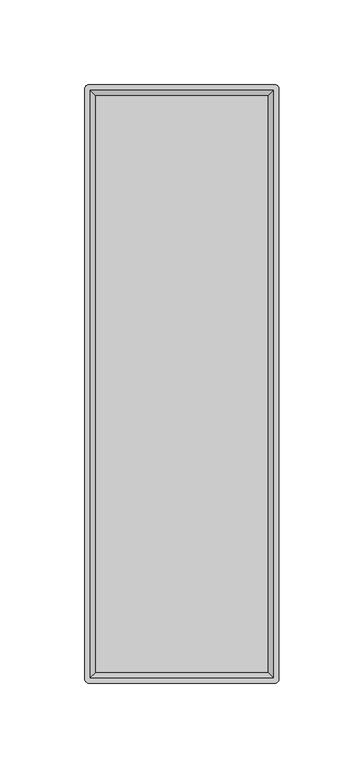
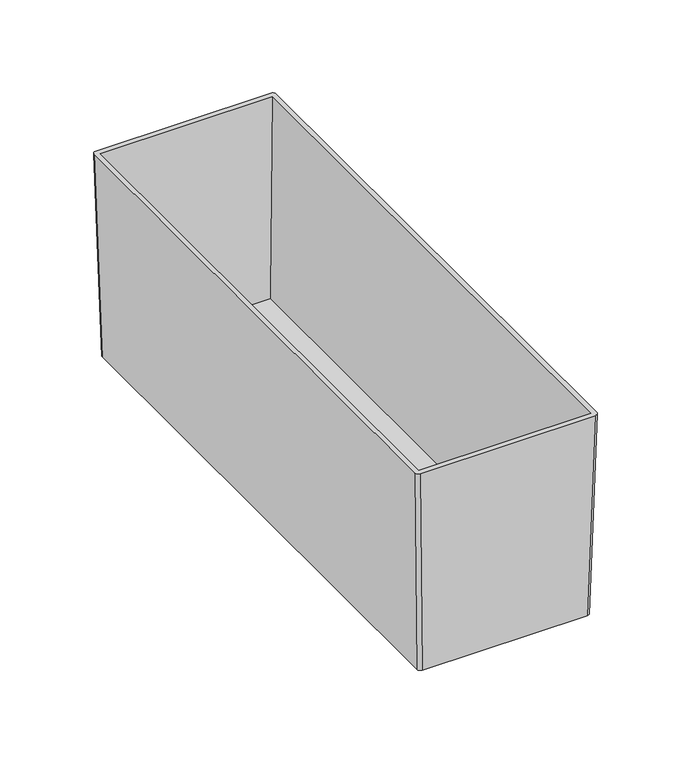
"""IFC4 building model written with IfcOpenShell, lengths in millimetres: furniture geometry."""

from ifc_helpers import new_model, si_unit, point, frame, origin, place, context, project, spatial, circle_curve, trimmed, source, transform, mapped, element, save
from ifc_brep_helpers import plane_surface, extruded_surface, advanced_brep


def furniture_ba50979e(model_context):
    return source(origin(), model_context, "Body", "AdvancedBrep", [
        advanced_brep(
        [(51.7525, 173.0375, 415.29), (53.975, 170.815, 415.29), (53.975, -170.815, 415.29), (51.7525, -173.0375, 415.29), (-51.7525, -173.0375, 415.29), (-53.975, -170.815, 415.29), (-53.975, 170.815, 415.29), (-51.7525, 173.0375, 415.29), (54.9275, 176.2125, 548.64), (-54.9275, 176.2125, 548.64), (-57.15, 173.99, 548.64), (-57.15, -173.99, 548.64), (-54.9275, -176.2125, 548.64), (54.9275, -176.2125, 548.64), (57.15, -173.99, 548.64), (57.15, 173.99, 548.64), (-53.975, 173.0375, 548.64), (53.975, 173.0375, 548.64), (53.975, -173.0375, 548.64), (-53.975, -173.0375, 548.64), (50.8, 169.8625, 417.83), (-50.8, 169.8625, 417.83), (-50.8, -169.8625, 417.83), (50.8, -169.8625, 417.83)],
        [
            (0, 1, circle_curve(frame((51.7525, 170.815, 415.29), z_axis=(0.0, 0.0, -1.0), x_axis=(-1.0, 0.0, 0.0)), 2.2225)),
            (1, 2),
            (2, 3, circle_curve(frame((51.7525, -170.815, 415.29), z_axis=(0.0, 0.0, -1.0), x_axis=(-1.0, 0.0, 0.0)), 2.2225)),
            (3, 4),
            (4, 5, circle_curve(frame((-51.7525, -170.815, 415.29), z_axis=(0.0, 0.0, -1.0), x_axis=(-1.0, 0.0, 0.0)), 2.2225)),
            (5, 6),
            (6, 7, circle_curve(frame((-51.7525, 170.815, 415.29), z_axis=(0.0, 0.0, -1.0), x_axis=(-1.0, 0.0, 0.0)), 2.2225)),
            (7, 0),
            (8, 9),
            (9, 10, circle_curve(frame((-54.9275, 173.99, 548.64), z_axis=(0.0, 0.0, 1.0), x_axis=(-1.0, 0.0, 0.0)), 2.2225)),
            (10, 11),
            (11, 12, circle_curve(frame((-54.9275, -173.99, 548.64), z_axis=(0.0, 0.0, 1.0), x_axis=(-1.0, 0.0, 0.0)), 2.2225)),
            (12, 13),
            (13, 14, circle_curve(frame((54.9275, -173.99, 548.64), z_axis=(0.0, 0.0, 1.0), x_axis=(-1.0, 0.0, 0.0)), 2.2225)),
            (14, 15),
            (15, 8, circle_curve(frame((54.9275, 173.99, 548.64), z_axis=(0.0, 0.0, 1.0), x_axis=(-1.0, 0.0, 0.0)), 2.2225)),
            (16, 17),
            (17, 18),
            (18, 19),
            (19, 16),
            (7, 9),
            (8, 0),
            (6, 10),
            (5, 11),
            (4, 12),
            (3, 13),
            (2, 14),
            (1, 15),
            (20, 21),
            (21, 22),
            (22, 23),
            (23, 20),
            (20, 17),
            (16, 21),
            (19, 22),
            (18, 23),
        ],
        [
            plane_surface(frame((0.0, 0.0, 415.29), z_axis=(0.0, 0.0, -1.0), x_axis=(-1.0, 0.0, 0.0))),
            plane_surface(frame((0.0, 0.0, 548.64), z_axis=(0.0, 0.0, 1.0), x_axis=(-1.0, 0.0, 0.0))),
            plane_surface(frame((0.0, 176.2125, 548.64), z_axis=(0.0, 0.999716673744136, -0.023802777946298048), x_axis=(1.0, 0.0, 0.0))),
            extruded_surface(trimmed(circle_curve(frame((-54.9275, 173.99, 548.64), z_axis=(0.0, 0.0, -1.0), x_axis=(-1.0, 0.0, 0.0)), 2.2225), [point((-57.15, 173.99, 548.64))], [point((-54.9275, 176.2125, 548.64))], True, "CARTESIAN"), (3.1750000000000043, -3.1750000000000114, -133.34999999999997), 133.4255738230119),
            plane_surface(frame((-57.15, 0.0, 548.64), z_axis=(-0.9997166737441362, 0.0, -0.02380277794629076), x_axis=(0.0, 1.0, 0.0))),
            extruded_surface(trimmed(circle_curve(frame((-54.9275, -173.99, 548.64), z_axis=(0.0, 0.0, -1.0), x_axis=(-1.0, 0.0, 0.0)), 2.2225), [point((-54.9275, -176.2125, 548.64))], [point((-57.15, -173.99, 548.64))], True, "CARTESIAN"), (3.1750000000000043, 3.1750000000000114, -133.34999999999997), 133.4255738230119),
            plane_surface(frame((0.0, -176.2125, 548.64), z_axis=(0.0, -0.9997166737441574, -0.02380277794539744), x_axis=(-1.0, 0.0, 0.0))),
            extruded_surface(trimmed(circle_curve(frame((54.9275, -173.99, 548.64), z_axis=(0.0, 0.0, -1.0), x_axis=(-1.0, 0.0, 0.0)), 2.2225), [point((57.15, -173.99, 548.64))], [point((54.9275, -176.2125, 548.64))], True, "CARTESIAN"), (-3.1750000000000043, 3.1750000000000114, -133.34999999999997), 133.4255738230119),
            plane_surface(frame((57.15, 0.0, 548.64), z_axis=(0.9997166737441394, 0.0, -0.02380277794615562), x_axis=(0.0, -1.0, 0.0))),
            extruded_surface(trimmed(circle_curve(frame((54.9275, 173.99, 548.64), z_axis=(0.0, 0.0, -1.0), x_axis=(-1.0, 0.0, 0.0)), 2.2225), [point((54.9275, 176.2125, 548.64))], [point((57.15, 173.99, 548.64))], True, "CARTESIAN"), (-3.1750000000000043, -3.1750000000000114, -133.34999999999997), 133.4255738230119),
            plane_surface(frame((0.0, 0.0, 417.83), z_axis=(0.0, 0.0, 1.0), x_axis=(-1.0, 0.0, 0.0))),
            plane_surface(frame((0.0, 173.0375, 548.64), z_axis=(0.0, -0.9997055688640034, 0.024264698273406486), x_axis=(1.0, 0.0, 0.0))),
            plane_surface(frame((-53.975, 0.0, 548.64), z_axis=(0.9997055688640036, 0.0, 0.02426469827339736), x_axis=(0.0, 1.0, 0.0))),
            plane_surface(frame((0.0, -173.0375, 548.64), z_axis=(0.0, 0.9997055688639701, 0.024264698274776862), x_axis=(-1.0, 0.0, 0.0))),
            plane_surface(frame((53.975, 0.0, 548.64), z_axis=(-0.9997055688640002, 0.0, 0.02426469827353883), x_axis=(0.0, -1.0, 0.0))),
        ],
        [
            (0, [[1, 2, 3, 4, 5, 6, 7, 8]]),
            (1, [[9, 10, 11, 12, 13, 14, 15, 16], [17, 18, 19, 20]]),
            (2, [[-8, 21, -9, 22]]),
            (3, [[-7, 23, -10, -21]]),
            (4, [[-6, 24, -11, -23]]),
            (5, [[-5, 25, -12, -24]]),
            (6, [[-4, 26, -13, -25]]),
            (7, [[-3, 27, -14, -26]]),
            (8, [[-2, 28, -15, -27]]),
            (9, [[-1, -22, -16, -28]]),
            (10, [[29, 30, 31, 32]]),
            (11, [[-29, 33, -17, 34]]),
            (12, [[-30, -34, -20, 35]]),
            (13, [[-31, -35, -19, 36]]),
            (14, [[-32, -36, -18, -33]]),
        ],
    ),
    ])


if __name__ == "__main__":
    model = new_model("IFC4")
    model_context = context("Model", 3, world=origin())
    ifc_project = project(units=[si_unit("LENGTHUNIT", "METRE", prefix="MILLI")], contexts=[model_context])
    site = spatial("IfcSite", under=ifc_project)
    building = spatial("IfcBuilding", under=site)
    placement = place(None, origin())
    furniture_shape = furniture_ba50979e(model_context)
    element("IfcFurniture", 1, ObjectType="HermanMiller_CoStruc_CO231_Subcontainer : 5 1/4\"H x 13 7/8\"D x 4 1/2\"W", at=placement, inside=building, context=model_context, shape_type="MappedRepresentation", body=[
        mapped(furniture_shape, transform((0.0, 0.0, 0.0), x_axis=(1.0, 0.0, 0.0), y_axis=(0.0, 1.0, 0.0), z_axis=(0.0, 0.0, 1.0))),
    ])
    save(model, "model.ifc")
